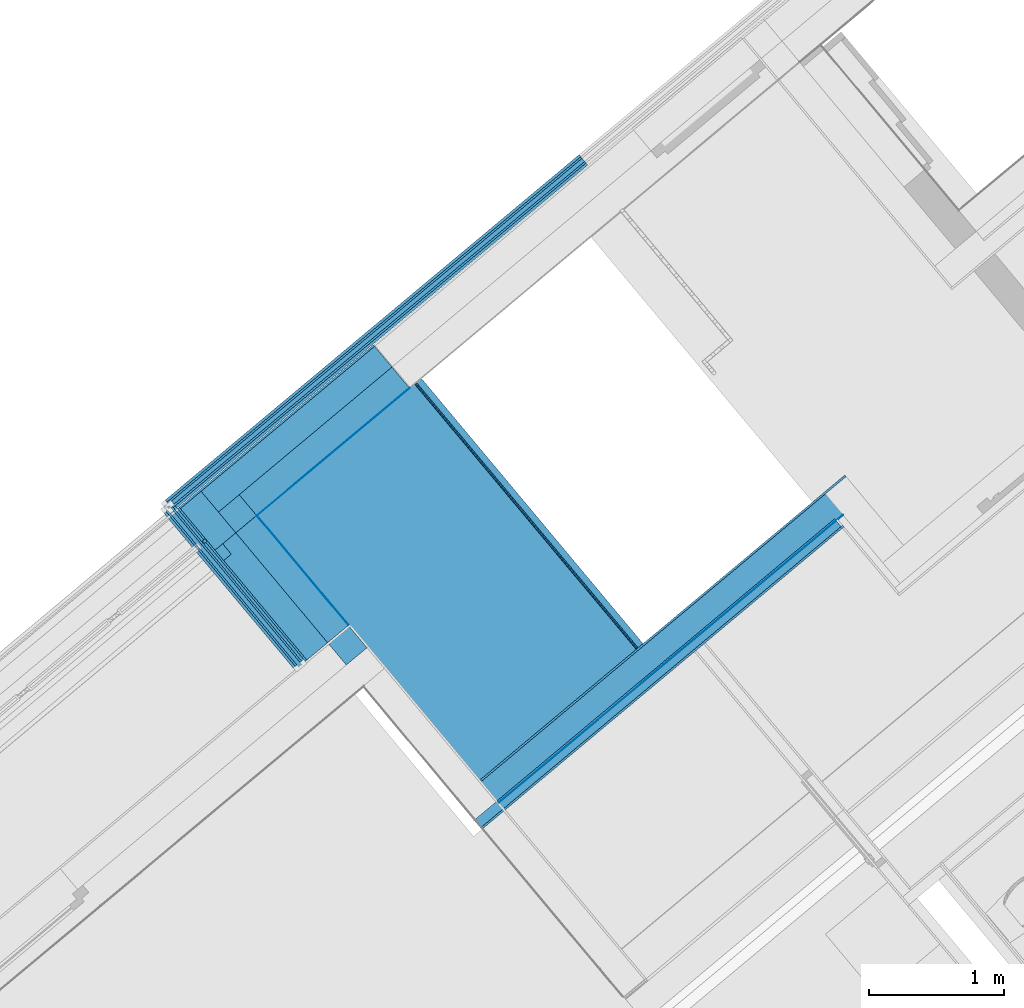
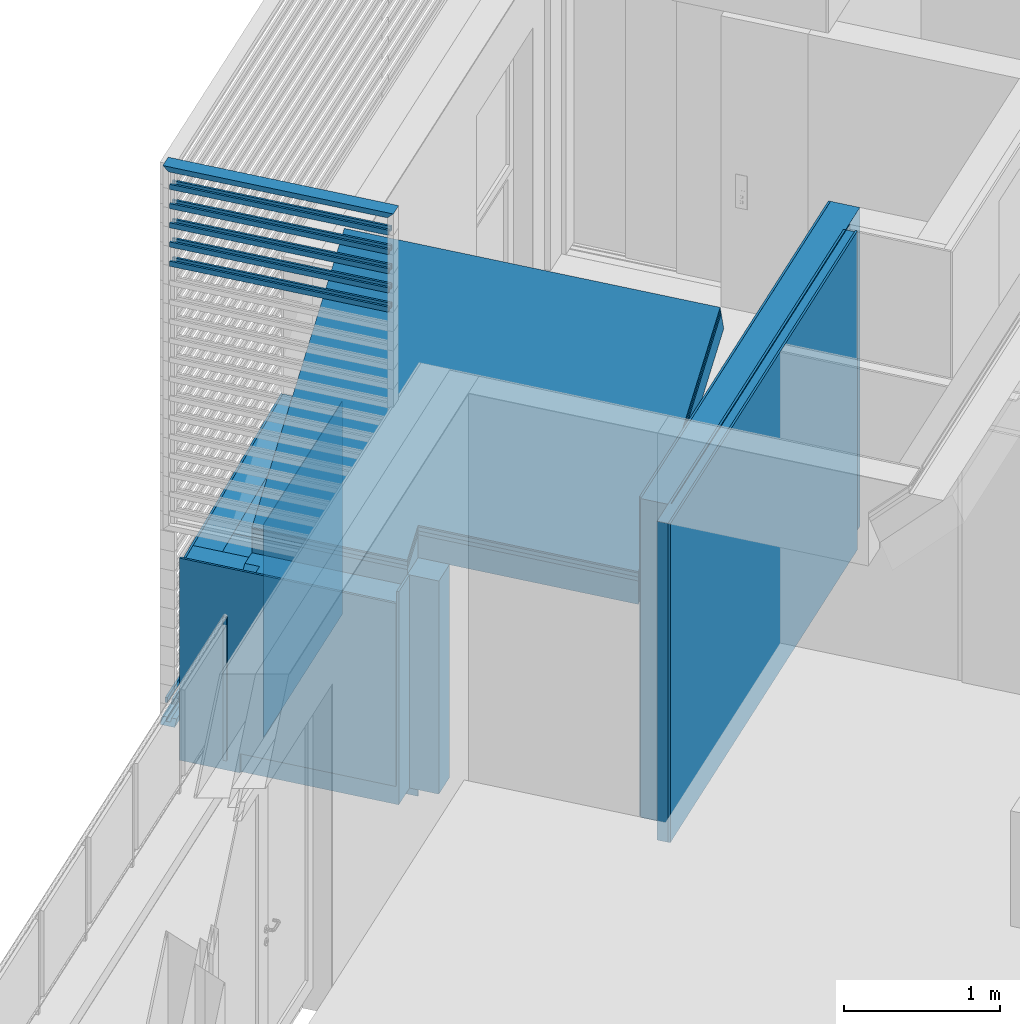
# One storey, part 21 of 47: 26 building element parts, 8 elements without a shape of their own.
"""IFC4 building model written with IfcOpenShell, lengths in metres."""

from ifc_helpers import new_model, entity, si_unit, converted_unit, derived_unit, direction, frame, origin_with_axes, place, context, subcontext, project, spatial, polygons, material, type_object, element, aggregate, save


model = new_model("IFC4")

# Units and contexts
model_context = context("Model", 3, precision=1e-05, world=origin_with_axes(), true_north=direction((0.0, 1.0)))
body_context = subcontext(model_context, "Body", "Model", "MODEL_VIEW")
ifc_project = project(units=[si_unit("LENGTHUNIT", "METRE"), si_unit("AREAUNIT", "SQUARE_METRE"), si_unit("VOLUMEUNIT", "CUBIC_METRE"), converted_unit("PLANEANGLEUNIT", "DEGREE", entity("IfcPlaneAngleMeasure", 0.0174532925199), si_unit("PLANEANGLEUNIT", "RADIAN"), dimensions=[0, 0, 0, 0, 0, 0, 0]), converted_unit("TIMEUNIT", "Year", entity("IfcTimeMeasure", 31556926.0), si_unit("TIMEUNIT", "SECOND"), dimensions=[0, 0, 1, 0, 0, 0, 0]), si_unit("MASSUNIT", "GRAM", prefix="KILO"), si_unit("THERMODYNAMICTEMPERATUREUNIT", "DEGREE_CELSIUS"), si_unit("LUMINOUSINTENSITYUNIT", "LUMEN"), si_unit("ENERGYUNIT", "JOULE", prefix="MEGA"), derived_unit("THERMALCONDUCTANCEUNIT", [(si_unit("POWERUNIT", "WATT"), 1), (si_unit("LENGTHUNIT", "METRE"), -1), (si_unit("THERMODYNAMICTEMPERATUREUNIT", "KELVIN"), -1)]), derived_unit("SPECIFICHEATCAPACITYUNIT", [(si_unit("ENERGYUNIT", "JOULE"), 1), (si_unit("MASSUNIT", "GRAM", prefix="KILO"), -1), (si_unit("THERMODYNAMICTEMPERATUREUNIT", "KELVIN"), -1)]), derived_unit("MASSDENSITYUNIT", [(si_unit("MASSUNIT", "GRAM", prefix="KILO"), 1), (si_unit("VOLUMEUNIT", "CUBIC_METRE"), -1)])], contexts=[model_context])

# Site, building, storey
site_placement = place(None, frame((-0.00153261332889, -0.00661245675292, 0.0), z_axis=(0.0, 0.0, 1.0), x_axis=(1.0, 0.0, 0.0)))
site = spatial("IfcSite", under=ifc_project, at=site_placement, Name="Site", CompositionType="ELEMENT")
building_placement = place(site_placement, origin_with_axes())
building = spatial("IfcBuilding", under=site, at=building_placement, Name="Building", CompositionType="ELEMENT")
storey_placement = place(building_placement, frame((0.0, 0.0, 8.66), z_axis=(0.0, 0.0, 1.0), x_axis=(1.0, 0.0, 0.0)))
storey = spatial("IfcBuildingStorey", under=building, at=storey_placement, Name="DG2", CompositionType="ELEMENT", Elevation=8.66)

# Roof, building element parts
roof_type = type_object("IfcRoofType", Name="Schrägdach Dachaufbau 210", PredefinedType="NOTDEFINED")
roof_placement = place(storey_placement, frame((-4.27511021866, 22.4222243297, 1.37239955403), z_axis=(0.0, 0.0, 1.0), x_axis=(0.641209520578, -0.767365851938, 0.0)))
roof = element("IfcRoof", 1, at=roof_placement, inside=storey, type_object=roof_type, Name="Dach-001", PredefinedType="NOTDEFINED")
ifc_material_1 = material(Name="Stehfalz")
building_element_part_1_placement = place(roof_placement, origin_with_axes())
building_element_part_1 = element("IfcBuildingElementPart", 2, at=building_element_part_1_placement, material=ifc_material_1, Name="Stehfalz", PredefinedType="NOTDEFINED", context=body_context, shape_type="Tessellation", body=[
    polygons([(0.201038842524, 1.92976754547, 1.60760044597), (0.200961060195, 0.410074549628, 0.543499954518), (0.200961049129, 0.210074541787, 0.403458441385), (1.26014203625, 0.210074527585, 0.403458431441), (1.26014204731, 0.410074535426, 0.543499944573), (2.76097523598, 0.410074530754, 0.543499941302), (2.76114823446, 1.92976754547, 1.60760044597), (0.201038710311, 1.93292053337, 1.59760044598), (0.200961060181, 0.415810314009, 0.535308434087), (0.200961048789, 0.210074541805, 0.39125069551), (1.26014203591, 0.210074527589, 0.391250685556), (1.26014204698, 0.41007453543, 0.531292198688), (2.76097458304, 0.410074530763, 0.53129219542), (2.76114794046, 1.93292053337, 1.59760044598)], [[[1, 2, 3, 4, 5, 6, 7]], [[1, 8, 9, 2]], [[2, 9, 10, 3]], [[3, 10, 11, 4]], [[4, 11, 12, 5]], [[5, 12, 13, 6]], [[6, 13, 14, 7]], [[7, 14, 8, 1]], [[8, 14, 13, 12, 11, 10, 9]]], closed=True),
])
ifc_material_2 = material(Name="Bauholz")
building_element_part_2_placement = place(roof_placement, origin_with_axes())
building_element_part_2 = element("IfcBuildingElementPart", 3, at=building_element_part_2_placement, material=ifc_material_2, Name="Bauholz", PredefinedType="NOTDEFINED", context=body_context, shape_type="Tessellation", body=[
    polygons([(2.76114794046, 1.93292053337, 1.59760044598), (2.76114720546, 1.94080300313, 1.57260044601), (0.201038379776, 1.94080300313, 1.57260044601), (0.201038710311, 1.93292053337, 1.59760044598), (2.76097458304, 0.410074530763, 0.53129219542), (2.76097295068, 0.410074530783, 0.500772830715), (1.26014204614, 0.410074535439, 0.500772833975), (1.26014203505, 0.210074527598, 0.360731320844), (0.200961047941, 0.21007454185, 0.360731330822), (0.200961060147, 0.430149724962, 0.514829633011), (0.200961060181, 0.415810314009, 0.535308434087), (0.200961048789, 0.210074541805, 0.39125069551), (1.26014203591, 0.210074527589, 0.391250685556), (1.26014204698, 0.41007453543, 0.531292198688)], [[[1, 2, 3, 4]], [[5, 6, 2, 1]], [[3, 2, 6, 7, 8, 9, 10]], [[4, 3, 10, 11]], [[4, 11, 12, 13, 14, 5, 1]], [[14, 7, 6, 5]], [[13, 8, 7, 14]], [[12, 9, 8, 13]], [[11, 10, 9, 12]]], closed=True),
])
ifc_material_3 = material(Name="Luftschicht horizontal")
building_element_part_3_placement = place(roof_placement, origin_with_axes())
building_element_part_3 = element("IfcBuildingElementPart", 4, at=building_element_part_3_placement, material=ifc_material_3, Name="Luftschicht horizontal", PredefinedType="NOTDEFINED", context=body_context, shape_type="Tessellation", body=[
    polygons([(2.76114720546, 1.94080300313, 1.57260044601), (2.76114647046, 1.94868547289, 1.54760044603), (0.201038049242, 1.94868547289, 1.54760044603), (0.201038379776, 1.94080300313, 1.57260044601), (2.76097295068, 0.410074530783, 0.500772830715), (2.76097131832, 0.410074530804, 0.470253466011), (1.26014204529, 0.410074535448, 0.470253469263), (1.2601420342, 0.210074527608, 0.330211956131), (0.200961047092, 0.210074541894, 0.330211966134), (0.200961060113, 0.444489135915, 0.494350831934), (0.200961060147, 0.430149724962, 0.514829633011), (0.200961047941, 0.21007454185, 0.360731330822), (1.26014203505, 0.210074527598, 0.360731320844), (1.26014204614, 0.410074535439, 0.500772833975)], [[[1, 2, 3, 4]], [[5, 6, 2, 1]], [[3, 2, 6, 7, 8, 9, 10]], [[4, 3, 10, 11]], [[4, 11, 12, 13, 14, 5, 1]], [[14, 7, 6, 5]], [[13, 8, 7, 14]], [[12, 9, 8, 13]], [[11, 10, 9, 12]]], closed=True),
])
ifc_material_4 = material(Name="EPS 1")
building_element_part_4_placement = place(roof_placement, origin_with_axes())
building_element_part_4 = element("IfcBuildingElementPart", 5, at=building_element_part_4_placement, material=ifc_material_4, Name="EPS 1", PredefinedType="NOTDEFINED", context=body_context, shape_type="Tessellation", body=[
    polygons([(2.76114647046, 1.94868547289, 1.54760044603), (2.76114206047, 1.99598029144, 1.39760044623), (0.201036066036, 1.99598029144, 1.39760044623), (0.201038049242, 1.94868547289, 1.54760044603), (2.76097131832, 0.410074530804, 0.470253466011), (2.76096152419, 0.410074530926, 0.287137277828), (1.26014204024, 0.410074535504, 0.287137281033), (1.26014202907, 0.210074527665, 0.147095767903), (0.200961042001, 0.21007454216, 0.147095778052), (0.200961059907, 0.530525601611, 0.371478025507), (0.200961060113, 0.444489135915, 0.494350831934), (0.200961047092, 0.210074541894, 0.330211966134), (1.2601420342, 0.210074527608, 0.330211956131), (1.26014204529, 0.410074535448, 0.470253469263)], [[[1, 2, 3, 4]], [[5, 6, 2, 1]], [[2, 6, 7, 8, 9, 10, 3]], [[4, 3, 10, 11]], [[4, 11, 12, 13, 14, 5, 1]], [[14, 7, 6, 5]], [[13, 8, 7, 14]], [[12, 9, 8, 13]], [[11, 10, 9, 12]]], closed=True),
])
aggregate(roof, [building_element_part_1, building_element_part_2, building_element_part_3, building_element_part_4])

# Curtain wall, building element parts
curtain_wall_type = type_object("IfcCurtainWallType", Name="Fassadentyp", PredefinedType="NOTDEFINED")
curtain_wall_1_placement = place(storey_placement, frame((-3.99984616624, 22.0071436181, 1.87), z_axis=(0.0, 0.0, 1.0), x_axis=(1.0, 0.0, 0.0)))
curtain_wall_1 = element("IfcCurtainWall", 6, at=curtain_wall_1_placement, inside=storey, type_object=curtain_wall_type, Name="Fassade-001", PredefinedType="NOTDEFINED")
ifc_material_5 = material(Name="Blech")
building_element_part_5_placement = place(curtain_wall_1_placement, origin_with_axes())
building_element_part_5 = element("IfcBuildingElementPart", 7, at=building_element_part_5_placement, material=ifc_material_5, Name="Blech", PredefinedType="NOTDEFINED", context=body_context, shape_type="Tessellation", body=[
    polygons([(-0.466268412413, 0.581398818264, 2.05000002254), (-0.466268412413, 0.581398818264, 2.03000002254), (0.489289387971, -0.562162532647, 2.03000002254), (0.489289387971, -0.562162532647, 2.05000002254), (0.489289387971, -0.562162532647, 2.07000002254), (-0.466268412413, 0.581398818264, 2.07000002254), (-0.454757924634, 0.591016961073, 2.07000002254), (-0.454757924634, 0.591016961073, 2.03000002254), (0.50079987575, -0.552544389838, 2.03000002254), (0.50079987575, -0.552544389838, 2.07000002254)], [[[1, 2, 3, 4, 5, 6]], [[2, 1, 6, 7, 8]], [[3, 2, 8, 9]], [[4, 3, 9, 10, 5]], [[5, 10, 7, 6]], [[9, 8, 7, 10]]], closed=True),
    polygons([(0.466268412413, -0.581398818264, 2.03000002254), (0.466268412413, -0.581398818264, 2.05000002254), (0.466268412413, -0.581398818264, 2.07000002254), (0.454757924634, -0.591016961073, 2.07000002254), (0.454757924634, -0.591016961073, 2.03000002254), (-0.489289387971, 0.562162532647, 2.03000002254), (-0.489289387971, 0.562162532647, 2.05000002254), (-0.489289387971, 0.562162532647, 2.07000002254), (-0.500799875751, 0.552544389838, 2.07000002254), (-0.500799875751, 0.552544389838, 2.03000002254)], [[[1, 2, 3, 4, 5]], [[2, 1, 6, 7, 8, 3]], [[8, 9, 4, 3]], [[4, 9, 10, 5]], [[6, 1, 5, 10]], [[7, 6, 10, 9, 8]]], closed=True),
])
building_element_part_6_placement = place(curtain_wall_1_placement, origin_with_axes())
building_element_part_6 = element("IfcBuildingElementPart", 8, at=building_element_part_6_placement, material=ifc_material_5, Name="Blech", PredefinedType="NOTDEFINED", context=body_context, shape_type="Tessellation", body=[
    polygons([(-0.466268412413, 0.581398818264, 2.20000002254), (-0.466268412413, 0.581398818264, 2.18000002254), (0.489289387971, -0.562162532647, 2.18000002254), (0.489289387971, -0.562162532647, 2.20000002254), (0.489289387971, -0.562162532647, 2.22000002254), (-0.466268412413, 0.581398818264, 2.22000002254), (-0.454757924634, 0.591016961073, 2.22000002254), (-0.454757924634, 0.591016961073, 2.18000002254), (0.50079987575, -0.552544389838, 2.18000002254), (0.50079987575, -0.552544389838, 2.22000002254)], [[[1, 2, 3, 4, 5, 6]], [[2, 1, 6, 7, 8]], [[3, 2, 8, 9]], [[4, 3, 9, 10, 5]], [[5, 10, 7, 6]], [[9, 8, 7, 10]]], closed=True),
    polygons([(0.466268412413, -0.581398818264, 2.18000002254), (0.466268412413, -0.581398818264, 2.20000002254), (0.466268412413, -0.581398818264, 2.22000002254), (0.454757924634, -0.591016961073, 2.22000002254), (0.454757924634, -0.591016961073, 2.18000002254), (-0.489289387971, 0.562162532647, 2.18000002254), (-0.489289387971, 0.562162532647, 2.20000002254), (-0.489289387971, 0.562162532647, 2.22000002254), (-0.500799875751, 0.552544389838, 2.22000002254), (-0.500799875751, 0.552544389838, 2.18000002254)], [[[1, 2, 3, 4, 5]], [[2, 1, 6, 7, 8, 3]], [[8, 9, 4, 3]], [[4, 9, 10, 5]], [[6, 1, 5, 10]], [[7, 6, 10, 9, 8]]], closed=True),
])
building_element_part_7_placement = place(curtain_wall_1_placement, origin_with_axes())
building_element_part_7 = element("IfcBuildingElementPart", 9, at=building_element_part_7_placement, material=ifc_material_5, Name="Blech", PredefinedType="NOTDEFINED", context=body_context, shape_type="Tessellation", body=[
    polygons([(-0.466268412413, 0.581398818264, 2.35000002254), (-0.466268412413, 0.581398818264, 2.33000002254), (0.489289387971, -0.562162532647, 2.33000002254), (0.489289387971, -0.562162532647, 2.35000002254), (0.489289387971, -0.562162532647, 2.37000002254), (-0.466268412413, 0.581398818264, 2.37000002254), (-0.454757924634, 0.591016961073, 2.37000002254), (-0.454757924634, 0.591016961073, 2.33000002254), (0.50079987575, -0.552544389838, 2.33000002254), (0.50079987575, -0.552544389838, 2.37000002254)], [[[1, 2, 3, 4, 5, 6]], [[2, 1, 6, 7, 8]], [[3, 2, 8, 9]], [[4, 3, 9, 10, 5]], [[5, 10, 7, 6]], [[9, 8, 7, 10]]], closed=True),
    polygons([(0.466268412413, -0.581398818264, 2.33000002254), (0.466268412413, -0.581398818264, 2.35000002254), (0.466268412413, -0.581398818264, 2.37000002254), (0.454757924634, -0.591016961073, 2.37000002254), (0.454757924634, -0.591016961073, 2.33000002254), (-0.489289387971, 0.562162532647, 2.33000002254), (-0.489289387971, 0.562162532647, 2.35000002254), (-0.489289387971, 0.562162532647, 2.37000002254), (-0.500799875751, 0.552544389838, 2.37000002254), (-0.500799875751, 0.552544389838, 2.33000002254)], [[[1, 2, 3, 4, 5]], [[2, 1, 6, 7, 8, 3]], [[8, 9, 4, 3]], [[4, 9, 10, 5]], [[6, 1, 5, 10]], [[7, 6, 10, 9, 8]]], closed=True),
])
building_element_part_8_placement = place(curtain_wall_1_placement, origin_with_axes())
building_element_part_8 = element("IfcBuildingElementPart", 10, at=building_element_part_8_placement, material=ifc_material_5, Name="Blech", PredefinedType="NOTDEFINED", context=body_context, shape_type="Tessellation", body=[
    polygons([(-0.466268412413, 0.581398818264, 2.50000002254), (-0.466268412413, 0.581398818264, 2.48000002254), (0.489289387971, -0.562162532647, 2.48000002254), (0.489289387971, -0.562162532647, 2.50000002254), (0.489289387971, -0.562162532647, 2.52000002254), (-0.466268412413, 0.581398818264, 2.52000002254), (-0.454757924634, 0.591016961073, 2.52000002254), (-0.454757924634, 0.591016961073, 2.48000002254), (0.50079987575, -0.552544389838, 2.48000002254), (0.50079987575, -0.552544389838, 2.52000002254)], [[[1, 2, 3, 4, 5, 6]], [[2, 1, 6, 7, 8]], [[3, 2, 8, 9]], [[4, 3, 9, 10, 5]], [[5, 10, 7, 6]], [[9, 8, 7, 10]]], closed=True),
    polygons([(0.466268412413, -0.581398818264, 2.48000002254), (0.466268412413, -0.581398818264, 2.50000002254), (0.466268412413, -0.581398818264, 2.52000002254), (0.454757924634, -0.591016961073, 2.52000002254), (0.454757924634, -0.591016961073, 2.48000002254), (-0.489289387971, 0.562162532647, 2.48000002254), (-0.489289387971, 0.562162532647, 2.50000002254), (-0.489289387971, 0.562162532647, 2.52000002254), (-0.500799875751, 0.552544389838, 2.52000002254), (-0.500799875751, 0.552544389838, 2.48000002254)], [[[1, 2, 3, 4, 5]], [[2, 1, 6, 7, 8, 3]], [[8, 9, 4, 3]], [[4, 9, 10, 5]], [[6, 1, 5, 10]], [[7, 6, 10, 9, 8]]], closed=True),
])
building_element_part_9_placement = place(curtain_wall_1_placement, origin_with_axes())
building_element_part_9 = element("IfcBuildingElementPart", 11, at=building_element_part_9_placement, material=ifc_material_5, Name="Blech", PredefinedType="NOTDEFINED", context=body_context, shape_type="Tessellation", body=[
    polygons([(-0.466268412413, 0.581398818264, 2.65000002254), (-0.466268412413, 0.581398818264, 2.63000002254), (0.489289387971, -0.562162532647, 2.63000002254), (0.489289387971, -0.562162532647, 2.65000002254), (0.489289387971, -0.562162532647, 2.67000002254), (-0.466268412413, 0.581398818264, 2.67000002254), (-0.454757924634, 0.591016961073, 2.67000002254), (-0.454757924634, 0.591016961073, 2.63000002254), (0.50079987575, -0.552544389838, 2.63000002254), (0.50079987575, -0.552544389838, 2.67000002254)], [[[1, 2, 3, 4, 5, 6]], [[2, 1, 6, 7, 8]], [[3, 2, 8, 9]], [[4, 3, 9, 10, 5]], [[5, 10, 7, 6]], [[9, 8, 7, 10]]], closed=True),
    polygons([(0.466268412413, -0.581398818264, 2.63000002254), (0.466268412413, -0.581398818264, 2.65000002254), (0.466268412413, -0.581398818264, 2.67000002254), (0.454757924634, -0.591016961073, 2.67000002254), (0.454757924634, -0.591016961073, 2.63000002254), (-0.489289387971, 0.562162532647, 2.63000002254), (-0.489289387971, 0.562162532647, 2.65000002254), (-0.489289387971, 0.562162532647, 2.67000002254), (-0.500799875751, 0.552544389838, 2.67000002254), (-0.500799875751, 0.552544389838, 2.63000002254)], [[[1, 2, 3, 4, 5]], [[2, 1, 6, 7, 8, 3]], [[8, 9, 4, 3]], [[4, 9, 10, 5]], [[6, 1, 5, 10]], [[7, 6, 10, 9, 8]]], closed=True),
])
building_element_part_10_placement = place(curtain_wall_1_placement, origin_with_axes())
building_element_part_10 = element("IfcBuildingElementPart", 12, at=building_element_part_10_placement, material=ifc_material_5, Name="Blech", PredefinedType="NOTDEFINED", context=body_context, shape_type="Tessellation", body=[
    polygons([(0.502113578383, -0.577509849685, 2.80000002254), (0.489289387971, -0.562162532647, 2.78000002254), (0.516147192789, -0.539720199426, 2.78000002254), (0.541795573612, -0.570414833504, 2.82000002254), (0.465058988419, -0.634535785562, 2.82000002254), (0.439410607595, -0.603841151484, 2.78000002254), (0.466268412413, -0.581398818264, 2.78000002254), (0.479092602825, -0.596746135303, 2.80000002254), (-0.479092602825, 0.596746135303, 2.80000002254), (-0.466268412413, 0.581398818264, 2.78000002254), (-0.439410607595, 0.603841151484, 2.78000002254), (-0.465058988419, 0.634535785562, 2.82000002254), (-0.541795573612, 0.570414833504, 2.82000002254), (-0.516147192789, 0.539720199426, 2.78000002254), (-0.489289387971, 0.562162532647, 2.78000002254), (-0.502113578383, 0.577509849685, 2.80000002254)], [[[1, 2, 3, 4, 5, 6, 7, 8]], [[1, 9, 10, 2]], [[10, 11, 3, 2]], [[3, 11, 12, 4]], [[4, 12, 13, 5]], [[5, 13, 14, 6]], [[7, 6, 14, 15]], [[15, 16, 8, 7]], [[8, 16, 9, 1]], [[9, 16, 15, 14, 13, 12, 11, 10]]], closed=True),
])
aggregate(curtain_wall_1, [building_element_part_5, building_element_part_6, building_element_part_7, building_element_part_8, building_element_part_9, building_element_part_10])

# Wall, building element parts
wall_type_1 = type_object("IfcWallType", Name="AW EG 420", PredefinedType="NOTDEFINED")
wall_1_placement = place(storey_placement, frame((-4.41636236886, 22.5835859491, 0.0), z_axis=(0.0, 0.0, 1.0), x_axis=(0.767365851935, 0.641209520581, 0.0)))
wall_1 = element("IfcWall", 13, at=wall_1_placement, inside=storey, type_object=wall_type_1, Name="Wand-002", PredefinedType="NOTDEFINED")
ifc_material_6 = material(Name="Zementputz")
building_element_part_11_placement = place(wall_1_placement, origin_with_axes())
building_element_part_11 = element("IfcBuildingElementPart", 14, at=building_element_part_11_placement, material=ifc_material_6, Name="Zementputz", PredefinedType="NOTDEFINED", context=body_context, shape_type="Tessellation", body=[
    polygons([(1.88733282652, -1.12695417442e-07, 1.62230824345), (1.88733282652, -0.0150001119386, 1.62230824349), (1.88733282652, -0.015, 0.0), (1.88733282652, 0.0, 0.0), (0.0150000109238, -0.0150000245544, 1.52838807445), (0.0150000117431, -1.04215018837e-08, 1.52838807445), (0.0149999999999, -0.015, 0.0), (0.015, 0.0, 0.0)], [[[1, 2, 3, 4]], [[5, 2, 1, 6]], [[2, 5, 7, 3]], [[8, 4, 3, 7]], [[6, 1, 4, 8]], [[5, 6, 8, 7]]], closed=True),
])
building_element_part_12_placement = place(wall_1_placement, origin_with_axes())
building_element_part_12 = element("IfcBuildingElementPart", 15, at=building_element_part_12_placement, material=ifc_material_4, Name="EPS 1", PredefinedType="NOTDEFINED", context=body_context, shape_type="Tessellation", body=[
    polygons([(1.88733282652, -0.0150001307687, 1.62230824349), (1.88733282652, -0.215000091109, 1.62230824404), (1.88733282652, -0.215, 0.0), (1.88733282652, -0.015, 0.0), (0.214999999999, -0.21499999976, 1.53842049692), (0.215, -0.0150000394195, 1.53842049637), (0.214999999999, -0.215, 0.0), (0.215, -0.015, 0.0)], [[[1, 2, 3, 4]], [[5, 2, 1, 6]], [[2, 5, 7, 3]], [[8, 4, 3, 7]], [[6, 1, 4, 8]], [[5, 6, 8, 7]]], closed=True),
])
ifc_material_7 = material(Name="Stahlbeton Wand")
building_element_part_13_placement = place(wall_1_placement, origin_with_axes())
building_element_part_13 = element("IfcBuildingElementPart", 16, at=building_element_part_13_placement, material=ifc_material_7, Name="Stahlbeton Wand", PredefinedType="NOTDEFINED", context=body_context, shape_type="Tessellation", body=[
    polygons([(1.88733282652, -0.215000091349, 1.62230824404), (1.88733282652, -0.415000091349, 1.62230824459), (1.88733282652, -0.415, 0.0), (1.88733282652, -0.215, 0.0), (0.414999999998, -0.415000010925, 1.54845291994), (0.414999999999, -0.215000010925, 1.54845291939), (0.414999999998, -0.415, 0.0), (0.414999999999, -0.215, 0.0)], [[[1, 2, 3, 4]], [[5, 2, 1, 6]], [[2, 5, 7, 3]], [[8, 4, 3, 7]], [[6, 1, 4, 8]], [[5, 6, 8, 7]]], closed=True),
])
building_element_part_14_placement = place(wall_1_placement, origin_with_axes())
building_element_part_14 = element("IfcBuildingElementPart", 17, at=building_element_part_14_placement, material=ifc_material_6, Name="Zementputz", PredefinedType="NOTDEFINED", context=body_context, shape_type="Tessellation", body=[
    polygons([(0.419999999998, -0.42, 1.66399832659), (1.88733282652, -0.42, 1.66399832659), (1.88733282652, -0.415, 1.66399832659), (0.419999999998, -0.415, 1.66399832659), (0.419999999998, -0.42, 0.0), (1.88733282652, -0.42, 0.0), (1.88733282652, -0.415, 0.0), (0.419999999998, -0.415, 0.0)], [[[1, 2, 3, 4]], [[5, 6, 2, 1]], [[3, 2, 6, 7]], [[4, 3, 7, 8]], [[5, 1, 4, 8]], [[8, 7, 6, 5]]], closed=True),
])
aggregate(wall_1, [building_element_part_11, building_element_part_12, building_element_part_13, building_element_part_14])

wall_type_2 = type_object("IfcWallType", Name="AW DG 220", PredefinedType="NOTDEFINED")
wall_2_placement = place(storey_placement, frame((0.519054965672, 22.8299362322, 0.0), z_axis=(0.0, 0.0, 1.0), x_axis=(-0.76736442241, -0.641211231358, 0.0)))
wall_2 = element("IfcWall", 18, at=wall_2_placement, inside=storey, type_object=wall_type_2, Name="Wand-003", PredefinedType="NOTDEFINED")
building_element_part_15_placement = place(wall_2_placement, origin_with_axes())
building_element_part_15 = element("IfcBuildingElementPart", 19, at=building_element_part_15_placement, material=ifc_material_6, Name="Zementputz", PredefinedType="NOTDEFINED", context=body_context, shape_type="Tessellation", body=[
    polygons([(3.51523335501, 0.215, 0.0), (0.200000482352, 0.215, 0.0), (0.200000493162, 0.22, 0.0), (3.51523336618, 0.22, 0.0), (3.51523335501, 0.215, 2.49), (0.200000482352, 0.215, 2.49), (0.200000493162, 0.22, 2.49), (3.51523336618, 0.22, 2.49)], [[[1, 2, 3, 4]], [[5, 6, 2, 1]], [[3, 2, 6, 7]], [[4, 3, 7, 8]], [[4, 8, 5, 1]], [[8, 7, 6, 5]]], closed=True),
])
building_element_part_16_placement = place(wall_2_placement, origin_with_axes())
building_element_part_16 = element("IfcBuildingElementPart", 20, at=building_element_part_16_placement, material=ifc_material_7, Name="Stahlbeton Wand", PredefinedType="NOTDEFINED", context=body_context, shape_type="Tessellation", body=[
    polygons([(3.5302329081, 0.015, 0.0), (0.0, 0.015, 0.0), (0.0, 0.215, 0.0), (3.53023335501, 0.215, 0.0), (3.5302329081, 0.015, 2.49), (0.0, 0.015, 2.49), (0.0, 0.215, 2.49), (3.53023335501, 0.215, 2.49)], [[[1, 2, 3, 4]], [[5, 6, 2, 1]], [[3, 2, 6, 7]], [[4, 3, 7, 8]], [[4, 8, 5, 1]], [[8, 7, 6, 5]]], closed=True),
])
building_element_part_17_placement = place(wall_2_placement, origin_with_axes())
building_element_part_17 = element("IfcBuildingElementPart", 21, at=building_element_part_17_placement, material=ifc_material_6, Name="Zementputz", PredefinedType="NOTDEFINED", context=body_context, shape_type="Tessellation", body=[
    polygons([(3.51523287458, 0.0, 0.0), (0.0, 0.0, 0.0), (0.0, 0.015, 0.0), (3.5152329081, 0.015, 0.0), (3.51523287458, 0.0, 2.49), (0.0, 0.0, 2.49), (0.0, 0.015, 2.49), (3.5152329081, 0.015, 2.49)], [[[1, 2, 3, 4]], [[5, 6, 2, 1]], [[3, 2, 6, 7]], [[4, 3, 7, 8]], [[4, 8, 5, 1]], [[8, 7, 6, 5]]], closed=True),
])
aggregate(wall_2, [building_element_part_15, building_element_part_16, building_element_part_17])

wall_3_placement = place(storey_placement, frame((-4.41636236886, 22.5835859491, -0.2), z_axis=(0.0, 0.0, 1.0), x_axis=(0.641209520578, -0.767365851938, 0.0)))
wall_3 = element("IfcWall", 22, at=wall_3_placement, inside=storey, type_object=wall_type_1, Name="Wand-002", PredefinedType="NOTDEFINED")
building_element_part_18_placement = place(wall_3_placement, origin_with_axes())
building_element_part_18 = element("IfcBuildingElementPart", 23, at=building_element_part_18_placement, material=ifc_material_6, Name="Zementputz", PredefinedType="NOTDEFINED", context=body_context, shape_type="Tessellation", body=[
    polygons([(0.415356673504, 0.42, 1.86399832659), (0.415356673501, 0.42, 1.86303786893), (1.47453765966, 0.42, 1.86303786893), (1.47453765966, 0.42, 0.2), (1.47453765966, 0.42, 0.0), (0.419999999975, 0.42, 0.0), (0.419999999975, 0.42, 0.2), (0.414999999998, 0.42, 0.2), (0.414999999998, 0.42, 1.86399832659), (0.415356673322, 0.415, 1.86399832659), (0.415356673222, 0.415000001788, 1.85953683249), (1.47453766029, 0.415000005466, 1.85953683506), (1.47453765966, 0.415000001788, 0.0), (0.419999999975, 0.415000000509, 0.0), (0.419999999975, 0.415000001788, 0.2), (0.414999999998, 0.415000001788, 0.2), (0.414999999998, 0.415, 1.86399832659)], [[[1, 2, 3, 4, 5, 6, 7, 8, 9]], [[2, 1, 10, 11]], [[12, 3, 2, 11]], [[3, 12, 13, 5, 4]], [[6, 5, 13, 14]], [[6, 14, 15, 7]], [[8, 7, 15, 16]], [[9, 8, 16, 17]], [[10, 1, 9, 17]], [[11, 10, 17, 16, 15, 14, 13, 12]]], closed=True),
])
building_element_part_19_placement = place(wall_3_placement, origin_with_axes())
building_element_part_19 = element("IfcBuildingElementPart", 24, at=building_element_part_19_placement, material=ifc_material_7, Name="Stahlbeton Wand", PredefinedType="NOTDEFINED", context=body_context, shape_type="Tessellation", body=[
    polygons([(0.415356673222, 0.415000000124, 1.85953683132), (1.47453766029, 0.415000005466, 1.85953683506), (1.47453766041, 0.415000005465, 1.86399832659), (1.68953765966, 0.415, 1.86399832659), (1.68953765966, 0.415000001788, 0.2), (0.419999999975, 0.414999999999, 0.2), (0.214999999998, 0.415000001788, 0.2), (0.215000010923, 0.415000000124, 1.7484529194), (0.415000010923, 0.414999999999, 1.74845291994), (0.415000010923, 0.415, 1.86399832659), (0.415356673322, 0.415, 1.86399832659), (0.415356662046, 0.215000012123, 1.71949533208), (1.47453764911, 0.214999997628, 1.71949532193), (1.47453765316, 0.214999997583, 1.86399832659), (1.68953765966, 0.215, 1.86399832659), (1.68953765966, 0.214999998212, 0.2), (1.47453765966, 0.214999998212, 0.2), (0.214999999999, 0.214999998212, 0.2), (0.214999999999, 0.214999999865, 1.73842049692), (0.414999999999, 0.214999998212, 1.73842049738), (0.414999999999, 0.215, 1.86399832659), (0.415356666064, 0.215000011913, 1.86399832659)], [[[1, 2, 3, 4, 5, 6, 7, 8, 9, 10, 11]], [[2, 1, 12, 13]], [[14, 3, 2, 13]], [[3, 14, 15, 4]], [[4, 15, 16, 5]], [[5, 16, 17, 18, 7, 6]], [[18, 19, 8, 7]], [[20, 9, 8, 19]], [[20, 21, 10, 9]], [[22, 11, 10, 21]], [[1, 11, 22, 12]], [[12, 22, 21, 20, 19, 18, 17, 16, 15, 14, 13]]], closed=True),
])
building_element_part_20_placement = place(wall_3_placement, origin_with_axes())
building_element_part_20 = element("IfcBuildingElementPart", 25, at=building_element_part_20_placement, material=ifc_material_4, Name="EPS 1", PredefinedType="NOTDEFINED", context=body_context, shape_type="Tessellation", body=[
    polygons([(0.41499999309, 0.0885140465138, 1.77845109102), (0.51499999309, 0.0885140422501, 1.77845109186), (0.514999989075, 0.0149999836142, 1.77845109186), (1.47453765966, 0.0150000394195, 1.77845109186), (1.47453765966, 0.21499999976, 1.77845109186), (0.414999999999, 0.21499999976, 1.77845109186), (0.514999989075, 0.0149999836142, 1.72697599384), (0.414999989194, 0.0171722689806, 1.7284970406), (0.414999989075, 0.0149999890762, 1.72697599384), (0.414999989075, 0.0149999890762, 1.72838807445), (0.0150000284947, 0.0150000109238, 1.72838807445), (0.0149999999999, 0.0150000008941, 0.2), (1.47453765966, 0.0150000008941, 0.2), (1.48953765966, 0.0150000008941, 0.2), (1.48953765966, 0.015, 1.86399832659), (1.47453765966, 0.0150000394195, 1.86399832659), (1.47453765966, 0.21499999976, 1.86399832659), (0.014999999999, 0.214999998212, 0.2), (0.0150000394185, 0.214999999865, 1.73842049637), (0.414999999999, 0.214999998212, 1.73842049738), (1.48953765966, 0.215, 1.86399832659), (1.48953765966, 0.214999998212, 0.2), (1.47453765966, 0.214999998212, 0.2)], [[[1, 2, 3, 4, 5, 6]], [[7, 2, 1, 8, 9]], [[7, 3, 2]], [[7, 9, 10, 11, 12, 13, 14, 15, 16, 4, 3]], [[4, 16, 17, 5]], [[18, 19, 20, 6, 5, 17, 21, 22, 23]], [[20, 8, 1, 6]], [[9, 8, 10]], [[11, 10, 8, 20, 19]], [[12, 11, 19, 18]], [[12, 18, 23, 22, 14, 13]], [[21, 15, 14, 22]], [[21, 17, 16, 15]]], closed=True),
])
building_element_part_21_placement = place(wall_3_placement, origin_with_axes())
building_element_part_21 = element("IfcBuildingElementPart", 26, at=building_element_part_21_placement, material=ifc_material_6, Name="Zementputz", PredefinedType="NOTDEFINED", context=body_context, shape_type="Tessellation", body=[
    polygons([(0.0, 0.015, 0.2), (1.04214272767e-08, 0.0150000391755, 1.77845109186), (1.47453765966, 0.0150000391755, 1.77845109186), (1.47453765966, 0.0149999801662, 0.35), (0.414999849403, 0.0149999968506, 0.35), (0.414999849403, 0.0149999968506, 0.2), (0.0, 0.0, 0.2), (9.60213952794e-09, 2.13462651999e-08, 1.77845109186), (1.47453765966, 2.13462580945e-08, 1.77845109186), (1.47453765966, 0.0, 0.35), (0.414999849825, 0.0, 0.35), (0.414999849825, 0.0, 0.2)], [[[1, 2, 3, 4, 5, 6]], [[7, 8, 2, 1]], [[8, 9, 3, 2]], [[4, 3, 9, 10]], [[10, 11, 5, 4]], [[5, 11, 12, 6]], [[7, 1, 6, 12]], [[10, 9, 8, 7, 12, 11]]], closed=True),
])
aggregate(wall_3, [building_element_part_18, building_element_part_19, building_element_part_20, building_element_part_21])

wall_type_3 = type_object("IfcWallType", Name="LB 9,0 cm einfache Vorsatzschale  90", PredefinedType="NOTDEFINED")
wall_4_placement = place(storey_placement, frame((-2.21545317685, 20.284664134, 0.0), z_axis=(0.0, 0.0, 1.0), x_axis=(0.767406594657, 0.641160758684, 0.0)))
wall_4 = element("IfcWall", 27, at=wall_4_placement, inside=storey, type_object=wall_type_3, Name="Wand-006", PredefinedType="NOTDEFINED")
ifc_material_8 = material(Name="Mineralwolle weich")
building_element_part_22_placement = place(wall_4_placement, origin_with_axes())
building_element_part_22 = element("IfcBuildingElementPart", 28, at=building_element_part_22_placement, material=ifc_material_8, Name="Mineralwolle weich", PredefinedType="NOTDEFINED", context=body_context, shape_type="Tessellation", body=[
    polygons([(3.46542087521, 0.0, 2.48999999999), (0.0, 0.0, 2.48999999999), (0.0, -0.075, 2.48999999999), (3.46542564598, -0.075, 2.48999999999), (3.46542087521, 0.0, 0.0), (0.0, 0.0, 0.0), (0.0, -0.075, 0.0), (3.46542564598, -0.075, 0.0)], [[[1, 2, 3, 4]], [[5, 6, 2, 1]], [[3, 2, 6, 7]], [[4, 3, 7, 8]], [[4, 8, 5, 1]], [[8, 7, 6, 5]]], closed=True),
])
ifc_material_9 = material(Name="Gipskarton")
building_element_part_23_placement = place(wall_4_placement, origin_with_axes())
building_element_part_23 = element("IfcBuildingElementPart", 29, at=building_element_part_23_placement, material=ifc_material_9, Name="Gipskarton", PredefinedType="NOTDEFINED", context=body_context, shape_type="Tessellation", body=[
    polygons([(3.48042564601, -0.075, 2.48999999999), (0.0, -0.075, 2.48999999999), (0.0, -0.09, 2.48999999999), (3.48042660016, -0.09, 2.48999999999), (3.48042564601, -0.075, 0.0), (0.0, -0.075, 0.0), (0.0, -0.09, 0.0), (3.48042660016, -0.09, 0.0)], [[[1, 2, 3, 4]], [[5, 6, 2, 1]], [[3, 2, 6, 7]], [[4, 3, 7, 8]], [[4, 8, 5, 1]], [[8, 7, 6, 5]]], closed=True),
])
aggregate(wall_4, [building_element_part_22, building_element_part_23])

# Curtain wall, building element parts
curtain_wall_2_placement = place(storey_placement, frame((-2.95253507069, 23.8775371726, 0.32), z_axis=(0.0, 0.0, 1.0), x_axis=(1.0, 0.0, 0.0)))
curtain_wall_2 = element("IfcCurtainWall", 30, at=curtain_wall_2_placement, inside=storey, type_object=curtain_wall_type, Name="Fassade-001", PredefinedType="NOTDEFINED")
building_element_part_24_placement = place(curtain_wall_2_placement, origin_with_axes())
building_element_part_24 = element("IfcBuildingElementPart", 31, at=building_element_part_24_placement, material=ifc_material_5, Name="Blech", PredefinedType="NOTDEFINED", context=body_context, shape_type="Tessellation", body=[
    polygons([(1.54752517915, 1.27174910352, 0.0), (1.54752517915, 1.27174910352, 0.02), (1.56994885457, 1.24487571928, 0.02), (1.56994885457, 1.24487571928, -0.02), (1.50588121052, 1.32165681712, -0.02), (1.50588121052, 1.32165681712, 0.02), (1.52830488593, 1.29478343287, 0.02), (1.52830488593, 1.29478343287, 0.0), (-1.52830488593, -1.29478343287, 0.0), (-1.51294866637, -1.28196990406, 0.02), (-1.49052499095, -1.3088432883, 0.02), (-1.52123743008, -1.33447034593, -0.02), (-1.58530507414, -1.25768924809, -0.02), (-1.554592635, -1.23206219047, 0.02), (-1.53216895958, -1.25893557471, 0.02), (-1.54752517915, -1.27174910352, 0.0)], [[[1, 2, 3, 4, 5, 6, 7, 8]], [[1, 9, 10, 2]], [[10, 11, 3, 2]], [[3, 11, 12, 4]], [[4, 12, 13, 5]], [[5, 13, 14, 6]], [[7, 6, 14, 15]], [[15, 16, 8, 7]], [[8, 16, 9, 1]], [[9, 16, 15, 14, 13, 12, 11, 10]]], closed=True),
])
building_element_part_25_placement = place(curtain_wall_2_placement, origin_with_axes())
building_element_part_25 = element("IfcBuildingElementPart", 32, at=building_element_part_25_placement, material=ifc_material_5, Name="Blech", PredefinedType="NOTDEFINED", context=body_context, shape_type="Tessellation", body=[
    polygons([(-1.51294866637, -1.28196990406, 0.15), (-1.51294866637, -1.28196990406, 0.17), (1.54752517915, 1.27174910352, 0.17), (1.54752517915, 1.27174910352, 0.15), (1.54752517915, 1.27174910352, 0.13), (-1.51294866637, -1.28196990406, 0.13), (-1.50333851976, -1.29348706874, 0.13), (-1.50333851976, -1.29348706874, 0.17), (1.55713532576, 1.26023193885, 0.17), (1.55713532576, 1.26023193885, 0.13)], [[[1, 2, 3, 4, 5, 6]], [[6, 7, 8, 2, 1]], [[3, 2, 8, 9]], [[4, 3, 9, 10, 5]], [[5, 10, 7, 6]], [[10, 9, 8, 7]]], closed=True),
    polygons([(1.52830488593, 1.29478343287, 0.13), (1.51869473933, 1.30630059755, 0.13), (1.51869473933, 1.30630059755, 0.17), (1.52830488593, 1.29478343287, 0.17), (1.52830488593, 1.29478343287, 0.15), (-1.53216895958, -1.25893557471, 0.13), (-1.54177910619, -1.24741841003, 0.13), (-1.54177910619, -1.24741841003, 0.17), (-1.53216895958, -1.25893557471, 0.17), (-1.53216895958, -1.25893557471, 0.15)], [[[1, 2, 3, 4, 5]], [[6, 7, 2, 1]], [[3, 2, 7, 8]], [[9, 4, 3, 8]], [[5, 4, 9, 10, 6, 1]], [[10, 9, 8, 7, 6]]], closed=True),
])
aggregate(curtain_wall_2, [building_element_part_24, building_element_part_25])

# Railing, building element part
railing_type = type_object("IfcRailingType", Name="Geländerart", PredefinedType="NOTDEFINED")
railing_placement = place(storey_placement, frame((-7.40951182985, 18.1414107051, 0.38), z_axis=(0.0, 0.0, 1.0), x_axis=(1.0, 0.0, 0.0)))
railing = element("IfcRailing", 33, at=railing_placement, inside=storey, type_object=railing_type, Name="Geländer - 001", PredefinedType="NOTDEFINED")
ifc_material_10 = material(Name="Aluminium")
building_element_part_26_placement = place(railing_placement, origin_with_axes())
building_element_part_26 = element("IfcBuildingElementPart", 34, at=building_element_part_26_placement, material=ifc_material_10, Name="Aluminium", PredefinedType="NOTDEFINED", context=body_context, shape_type="Tessellation", body=[
    polygons([(3.21273755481, 4.19887816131, -0.3), (3.19670731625, 4.21806230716, -0.3), (3.19670731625, 4.21806230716, 0.82), (3.21273755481, 4.19887816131, 0.82), (3.19355340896, 4.18284792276, -0.3), (3.1775231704, 4.20203206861, -0.3), (3.1775231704, 4.20203206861, 0.82), (3.19355340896, 4.18284792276, 0.82)], [[[1, 2, 3, 4]], [[1, 5, 6, 2]], [[2, 6, 7, 3]], [[4, 3, 7, 8]], [[5, 1, 4, 8]], [[6, 5, 8, 7]]], closed=True),
])
aggregate(railing, [building_element_part_26])

save(model, "model.ifc")
